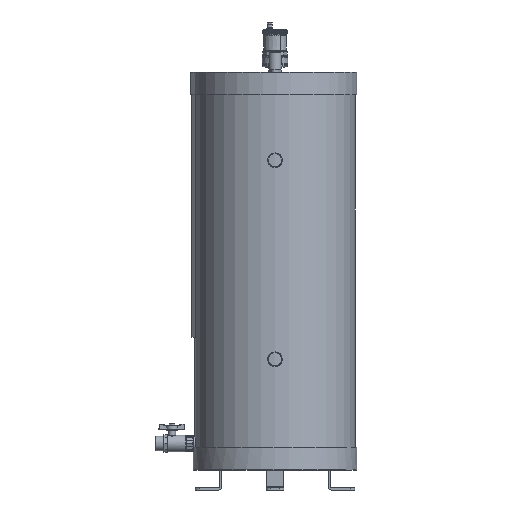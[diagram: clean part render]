
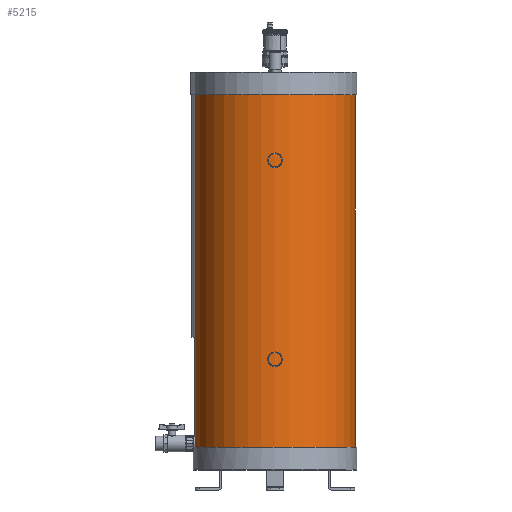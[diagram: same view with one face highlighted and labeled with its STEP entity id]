
A CAD part, front view. The second image highlights one B-rep face of the part: STEP entity #5215.
In plain terms, the highlighted cylindrical face has radius 181 mm (diameter 362 mm), a full revolution.
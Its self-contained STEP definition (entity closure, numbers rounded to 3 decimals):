
#5215 = ADVANCED_FACE('',(#5216),#5229,.T.);
#5216 = FACE_BOUND('',#5217,.F.);
#5217 = EDGE_LOOP('',(#5218,#5252,#5275,#5302));
#5218 = ORIENTED_EDGE('',*,*,#5219,.F.);
#5219 = EDGE_CURVE('',#5220,#5220,#5222,.T.);
#5220 = VERTEX_POINT('',#5221);
#5221 = CARTESIAN_POINT('',(0.,-232.629,-898.));
#5222 = SURFACE_CURVE('',#5223,(#5228,#5240),.PCURVE_S1.);
#5223 = CIRCLE('',#5224,181.);
#5224 = AXIS2_PLACEMENT_3D('',#5225,#5226,#5227);
#5225 = CARTESIAN_POINT('',(0.,-51.629,-898.));
#5226 = DIRECTION('',(0.,0.,1.));
#5227 = DIRECTION('',(0.,-1.,0.));
#5228 = PCURVE('',#5229,#5234);
#5229 = CYLINDRICAL_SURFACE('',#5230,181.);
#5230 = AXIS2_PLACEMENT_3D('',#5231,#5232,#5233);
#5231 = CARTESIAN_POINT('',(0.,-51.629,-898.));
#5232 = DIRECTION('',(0.,0.,-1.));
#5233 = DIRECTION('',(0.,-1.,0.));
#5234 = DEFINITIONAL_REPRESENTATION('',(#5235),#5239);
#5235 = LINE('',#5236,#5237);
#5236 = CARTESIAN_POINT('',(-0.,0.));
#5237 = VECTOR('',#5238,1.);
#5238 = DIRECTION('',(-1.,0.));
#5239 = ( GEOMETRIC_REPRESENTATION_CONTEXT(2) 
PARAMETRIC_REPRESENTATION_CONTEXT() REPRESENTATION_CONTEXT('2D SPACE',''
  ) );
#5240 = PCURVE('',#5241,#5246);
#5241 = PLANE('',#5242);
#5242 = AXIS2_PLACEMENT_3D('',#5243,#5244,#5245);
#5243 = CARTESIAN_POINT('',(0.,-51.629,-898.));
#5244 = DIRECTION('',(0.,0.,1.));
#5245 = DIRECTION('',(0.,-1.,0.));
#5246 = DEFINITIONAL_REPRESENTATION('',(#5247),#5251);
#5247 = CIRCLE('',#5248,181.);
#5248 = AXIS2_PLACEMENT_2D('',#5249,#5250);
#5249 = CARTESIAN_POINT('',(0.,0.));
#5250 = DIRECTION('',(1.,0.));
#5251 = ( GEOMETRIC_REPRESENTATION_CONTEXT(2) 
PARAMETRIC_REPRESENTATION_CONTEXT() REPRESENTATION_CONTEXT('2D SPACE',''
  ) );
#5252 = ORIENTED_EDGE('',*,*,#5253,.T.);
#5253 = EDGE_CURVE('',#5220,#5254,#5256,.T.);
#5254 = VERTEX_POINT('',#5255);
#5255 = CARTESIAN_POINT('',(0.,-232.629,-2.));
#5256 = SEAM_CURVE('',#5257,(#5261,#5268),.PCURVE_S1.);
#5257 = LINE('',#5258,#5259);
#5258 = CARTESIAN_POINT('',(0.,-232.629,-898.));
#5259 = VECTOR('',#5260,1.);
#5260 = DIRECTION('',(0.,0.,1.));
#5261 = PCURVE('',#5229,#5262);
#5262 = DEFINITIONAL_REPRESENTATION('',(#5263),#5267);
#5263 = LINE('',#5264,#5265);
#5264 = CARTESIAN_POINT('',(-6.283,0.));
#5265 = VECTOR('',#5266,1.);
#5266 = DIRECTION('',(-0.,-1.));
#5267 = ( GEOMETRIC_REPRESENTATION_CONTEXT(2) 
PARAMETRIC_REPRESENTATION_CONTEXT() REPRESENTATION_CONTEXT('2D SPACE',''
  ) );
#5268 = PCURVE('',#5229,#5269);
#5269 = DEFINITIONAL_REPRESENTATION('',(#5270),#5274);
#5270 = LINE('',#5271,#5272);
#5271 = CARTESIAN_POINT('',(-0.,0.));
#5272 = VECTOR('',#5273,1.);
#5273 = DIRECTION('',(-0.,-1.));
#5274 = ( GEOMETRIC_REPRESENTATION_CONTEXT(2) 
PARAMETRIC_REPRESENTATION_CONTEXT() REPRESENTATION_CONTEXT('2D SPACE',''
  ) );
#5275 = ORIENTED_EDGE('',*,*,#5276,.F.);
#5276 = EDGE_CURVE('',#5254,#5254,#5277,.T.);
#5277 = SURFACE_CURVE('',#5278,(#5283,#5290),.PCURVE_S1.);
#5278 = CIRCLE('',#5279,181.);
#5279 = AXIS2_PLACEMENT_3D('',#5280,#5281,#5282);
#5280 = CARTESIAN_POINT('',(0.,-51.629,-2.));
#5281 = DIRECTION('',(-0.,0.,-1.));
#5282 = DIRECTION('',(0.,-1.,0.));
#5283 = PCURVE('',#5229,#5284);
#5284 = DEFINITIONAL_REPRESENTATION('',(#5285),#5289);
#5285 = LINE('',#5286,#5287);
#5286 = CARTESIAN_POINT('',(-6.283,-896.));
#5287 = VECTOR('',#5288,1.);
#5288 = DIRECTION('',(1.,-0.));
#5289 = ( GEOMETRIC_REPRESENTATION_CONTEXT(2) 
PARAMETRIC_REPRESENTATION_CONTEXT() REPRESENTATION_CONTEXT('2D SPACE',''
  ) );
#5290 = PCURVE('',#5291,#5296);
#5291 = PLANE('',#5292);
#5292 = AXIS2_PLACEMENT_3D('',#5293,#5294,#5295);
#5293 = CARTESIAN_POINT('',(-8.479,-51.629,-2.));
#5294 = DIRECTION('',(0.,0.,-1.));
#5295 = DIRECTION('',(0.,1.,0.));
#5296 = DEFINITIONAL_REPRESENTATION('',(#5297),#5301);
#5297 = CIRCLE('',#5298,181.);
#5298 = AXIS2_PLACEMENT_2D('',#5299,#5300);
#5299 = CARTESIAN_POINT('',(0.,8.479));
#5300 = DIRECTION('',(-1.,0.));
#5301 = ( GEOMETRIC_REPRESENTATION_CONTEXT(2) 
PARAMETRIC_REPRESENTATION_CONTEXT() REPRESENTATION_CONTEXT('2D SPACE',''
  ) );
#5302 = ORIENTED_EDGE('',*,*,#5253,.F.);
